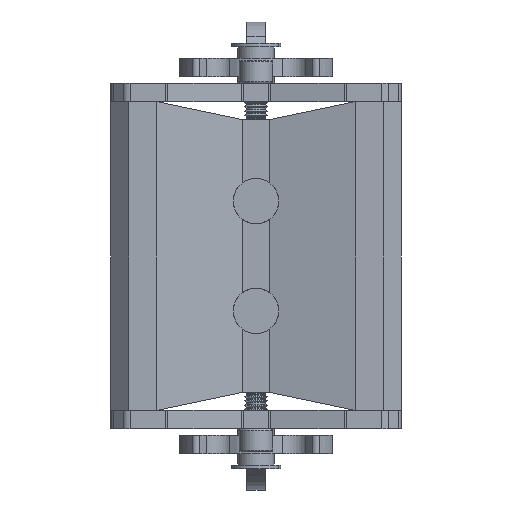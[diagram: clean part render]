
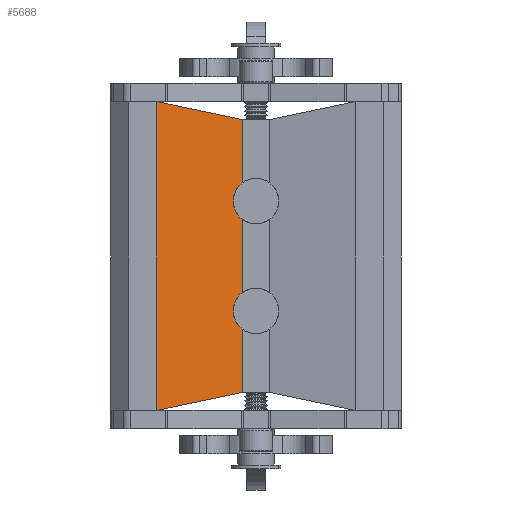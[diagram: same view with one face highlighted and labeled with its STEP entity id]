
A CAD part, front view. The second image highlights one B-rep face of the part: STEP entity #5688.
In plain terms, the highlighted planar face has unit normal (0.206, -0.979, 0).
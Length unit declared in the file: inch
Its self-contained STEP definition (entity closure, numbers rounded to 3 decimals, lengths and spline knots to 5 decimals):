
#1423 = LINE ( 'NONE', #3865, #35102 ) ;
#1599 = CARTESIAN_POINT ( 'NONE',  ( -0.3125, 0.22368, 0.75487 ) ) ;
#1950 = ORIENTED_EDGE ( 'NONE', *, *, #44087, .T. ) ;
#2162 =( BOUNDED_CURVE ( )  B_SPLINE_CURVE ( 3, ( #38310, #30737, #46088, #19479 ),
 .UNSPECIFIED., .F., .F. ) 
 B_SPLINE_CURVE_WITH_KNOTS ( ( 4, 4 ),
 ( 3.14159, 4.06889 ),
 .UNSPECIFIED. ) 
 CURVE ( )  GEOMETRIC_REPRESENTATION_ITEM ( )  RATIONAL_B_SPLINE_CURVE ( ( 1., 0.93, 0.93, 1. ) ) 
 REPRESENTATION_ITEM ( '' )  );
#3722 = VERTEX_POINT ( 'NONE', #10729 ) ;
#3865 = CARTESIAN_POINT ( 'NONE',  ( -1.375, 0., -2.125 ) ) ;
#3893 = CARTESIAN_POINT ( 'NONE',  ( -0.3125, 0.22368, -0.65465 ) ) ;
#3937 = VERTEX_POINT ( 'NONE', #38762 ) ;
#4303 =( BOUNDED_CURVE ( )  B_SPLINE_CURVE ( 3, ( #4423, #11837, #35123, #42382 ),
 .UNSPECIFIED., .F., .T. ) 
 B_SPLINE_CURVE_WITH_KNOTS ( ( 4, 4 ),
 ( 2.2143, 3.14159 ),
 .UNSPECIFIED. ) 
 CURVE ( )  GEOMETRIC_REPRESENTATION_ITEM ( )  RATIONAL_B_SPLINE_CURVE ( ( 1., 0.93, 0.93, 1. ) ) 
 REPRESENTATION_ITEM ( '' )  );
#4423 = CARTESIAN_POINT ( 'NONE',  ( -0.1875, 0.25, -1.00487 ) ) ;
#4631 = CARTESIAN_POINT ( 'NONE',  ( -0.3125, 0.22368, -0.75487 ) ) ;
#4856 = EDGE_CURVE ( 'NONE', #17604, #47384, #1423, .T. ) ;
#5065 = DIRECTION ( 'NONE',  ( 0., 0., 1. ) ) ;
#5113 = VECTOR ( 'NONE', #5065, 39.37008 ) ;
#5688 = ADVANCED_FACE ( 'NONE', ( #37931 ), #16819, .F. ) ;
#6171 = VERTEX_POINT ( 'NONE', #47494 ) ;
#6587 = VECTOR ( 'NONE', #28749, 39.37008 ) ;
#6821 = CARTESIAN_POINT ( 'NONE',  ( -0.1875, 0.25, -0.50487 ) ) ;
#7489 = CARTESIAN_POINT ( 'NONE',  ( -0.26768, 0.23312, -0.56501 ) ) ;
#7830 = CARTESIAN_POINT ( 'NONE',  ( -0.3125, 0.22368, -0.75487 ) ) ;
#8218 = VERTEX_POINT ( 'NONE', #4631 ) ;
#9012 = CARTESIAN_POINT ( 'NONE',  ( -0.1875, 0.25, -2.125 ) ) ;
#9114 = EDGE_LOOP ( 'NONE', ( #23153, #14178, #1950, #34354, #42318, #10480, #28228, #42912, #26280, #36002 ) ) ;
#9162 = CARTESIAN_POINT ( 'NONE',  ( -0.26768, 0.23312, 0.56501 ) ) ;
#10480 = ORIENTED_EDGE ( 'NONE', *, *, #4856, .F. ) ;
#10721 = CARTESIAN_POINT ( 'NONE',  ( -1.375, 0., 2.125 ) ) ;
#10729 = CARTESIAN_POINT ( 'NONE',  ( -0.1875, 0.25, -1.875 ) ) ;
#10998 = EDGE_CURVE ( 'NONE', #13675, #8218, #4303, .T. ) ;
#11837 = CARTESIAN_POINT ( 'NONE',  ( -0.26768, 0.23312, -0.94474 ) ) ;
#12139 =( BOUNDED_CURVE ( )  B_SPLINE_CURVE ( 3, ( #7830, #3893, #7489, #19050 ),
 .UNSPECIFIED., .F., .F. ) 
 B_SPLINE_CURVE_WITH_KNOTS ( ( 4, 4 ),
 ( 3.14159, 4.06889 ),
 .UNSPECIFIED. ) 
 CURVE ( )  GEOMETRIC_REPRESENTATION_ITEM ( )  RATIONAL_B_SPLINE_CURVE ( ( 1., 0.93, 0.93, 1. ) ) 
 REPRESENTATION_ITEM ( '' )  );
#13675 = VERTEX_POINT ( 'NONE', #36856 ) ;
#14178 = ORIENTED_EDGE ( 'NONE', *, *, #17083, .T. ) ;
#15015 = EDGE_CURVE ( 'NONE', #36011, #17619, #28760, .T. ) ;
#15590 = CARTESIAN_POINT ( 'NONE',  ( -0.23585, 0.23982, -1.88518 ) ) ;
#16819 = PLANE ( 'NONE',  #48561 ) ;
#17083 = EDGE_CURVE ( 'NONE', #17619, #39146, #21857, .T. ) ;
#17359 = EDGE_CURVE ( 'NONE', #8218, #36011, #12139, .T. ) ;
#17380 = EDGE_CURVE ( 'NONE', #3722, #17604, #18728, .T. ) ;
#17604 = VERTEX_POINT ( 'NONE', #38107 ) ;
#17619 = VERTEX_POINT ( 'NONE', #37788 ) ;
#18728 = LINE ( 'NONE', #15590, #42409 ) ;
#19050 = CARTESIAN_POINT ( 'NONE',  ( -0.1875, 0.25, -0.50487 ) ) ;
#19479 = CARTESIAN_POINT ( 'NONE',  ( -0.1875, 0.25, 1.00488 ) ) ;
#20811 = DIRECTION ( 'NONE',  ( -0.206, 0.979, 0. ) ) ;
#21857 =( BOUNDED_CURVE ( )  B_SPLINE_CURVE ( 3, ( #47019, #9162, #27536, #1599 ),
 .UNSPECIFIED., .F., .F. ) 
 B_SPLINE_CURVE_WITH_KNOTS ( ( 4, 4 ),
 ( 2.2143, 3.14159 ),
 .UNSPECIFIED. ) 
 CURVE ( )  GEOMETRIC_REPRESENTATION_ITEM ( )  RATIONAL_B_SPLINE_CURVE ( ( 1., 0.93, 0.93, 1. ) ) 
 REPRESENTATION_ITEM ( '' )  );
#22081 = CARTESIAN_POINT ( 'NONE',  ( -0.1875, 0.25, -2.125 ) ) ;
#22170 = EDGE_CURVE ( 'NONE', #3722, #13675, #44739, .T. ) ;
#23153 = ORIENTED_EDGE ( 'NONE', *, *, #15015, .T. ) ;
#23340 = EDGE_CURVE ( 'NONE', #3937, #47384, #39091, .T. ) ;
#24589 = DIRECTION ( 'NONE',  ( -0.979, -0.206, 0. ) ) ;
#26228 = DIRECTION ( 'NONE',  ( 0., 0., 1. ) ) ;
#26280 = ORIENTED_EDGE ( 'NONE', *, *, #10998, .T. ) ;
#27536 = CARTESIAN_POINT ( 'NONE',  ( -0.3125, 0.22368, 0.65465 ) ) ;
#28123 = EDGE_CURVE ( 'NONE', #6171, #3937, #28835, .T. ) ;
#28228 = ORIENTED_EDGE ( 'NONE', *, *, #17380, .F. ) ;
#28506 = CARTESIAN_POINT ( 'NONE',  ( -0.1875, 0.25, -2.125 ) ) ;
#28749 = DIRECTION ( 'NONE',  ( -0.958, -0.202, 0.202 ) ) ;
#28760 = LINE ( 'NONE', #9012, #5113 ) ;
#28835 = LINE ( 'NONE', #28506, #38288 ) ;
#30293 = DIRECTION ( 'NONE',  ( 0., 0., 1. ) ) ;
#30737 = CARTESIAN_POINT ( 'NONE',  ( -0.3125, 0.22368, 0.8551 ) ) ;
#31732 = VECTOR ( 'NONE', #26228, 39.37008 ) ;
#34354 = ORIENTED_EDGE ( 'NONE', *, *, #28123, .T. ) ;
#34927 = CARTESIAN_POINT ( 'NONE',  ( -0.3125, 0.22368, 0.75487 ) ) ;
#35102 = VECTOR ( 'NONE', #30293, 39.37008 ) ;
#35123 = CARTESIAN_POINT ( 'NONE',  ( -0.3125, 0.22368, -0.8551 ) ) ;
#36002 = ORIENTED_EDGE ( 'NONE', *, *, #17359, .T. ) ;
#36011 = VERTEX_POINT ( 'NONE', #6821 ) ;
#36856 = CARTESIAN_POINT ( 'NONE',  ( -0.1875, 0.25, -1.00487 ) ) ;
#37788 = CARTESIAN_POINT ( 'NONE',  ( -0.1875, 0.25, 0.50487 ) ) ;
#37931 = FACE_OUTER_BOUND ( 'NONE', #9114, .T. ) ;
#38107 = CARTESIAN_POINT ( 'NONE',  ( -1.375, 0., -2.125 ) ) ;
#38288 = VECTOR ( 'NONE', #43377, 39.37008 ) ;
#38310 = CARTESIAN_POINT ( 'NONE',  ( -0.3125, 0.22368, 0.75487 ) ) ;
#38762 = CARTESIAN_POINT ( 'NONE',  ( -0.1875, 0.25, 1.875 ) ) ;
#39091 = LINE ( 'NONE', #39793, #6587 ) ;
#39146 = VERTEX_POINT ( 'NONE', #34927 ) ;
#39793 = CARTESIAN_POINT ( 'NONE',  ( -0.23585, 0.23982, 1.88518 ) ) ;
#42012 = DIRECTION ( 'NONE',  ( -0.958, -0.202, -0.202 ) ) ;
#42318 = ORIENTED_EDGE ( 'NONE', *, *, #23340, .T. ) ;
#42382 = CARTESIAN_POINT ( 'NONE',  ( -0.3125, 0.22368, -0.75487 ) ) ;
#42409 = VECTOR ( 'NONE', #42012, 39.37008 ) ;
#42912 = ORIENTED_EDGE ( 'NONE', *, *, #22170, .T. ) ;
#43377 = DIRECTION ( 'NONE',  ( 0., 0., 1. ) ) ;
#44087 = EDGE_CURVE ( 'NONE', #39146, #6171, #2162, .T. ) ;
#44739 = LINE ( 'NONE', #22081, #31732 ) ;
#46088 = CARTESIAN_POINT ( 'NONE',  ( -0.26768, 0.23312, 0.94474 ) ) ;
#47019 = CARTESIAN_POINT ( 'NONE',  ( -0.1875, 0.25, 0.50487 ) ) ;
#47053 = CARTESIAN_POINT ( 'NONE',  ( -1.375, 0., -2.125 ) ) ;
#47384 = VERTEX_POINT ( 'NONE', #10721 ) ;
#47494 = CARTESIAN_POINT ( 'NONE',  ( -0.1875, 0.25, 1.00488 ) ) ;
#48561 = AXIS2_PLACEMENT_3D ( 'NONE', #47053, #20811, #24589 ) ;
